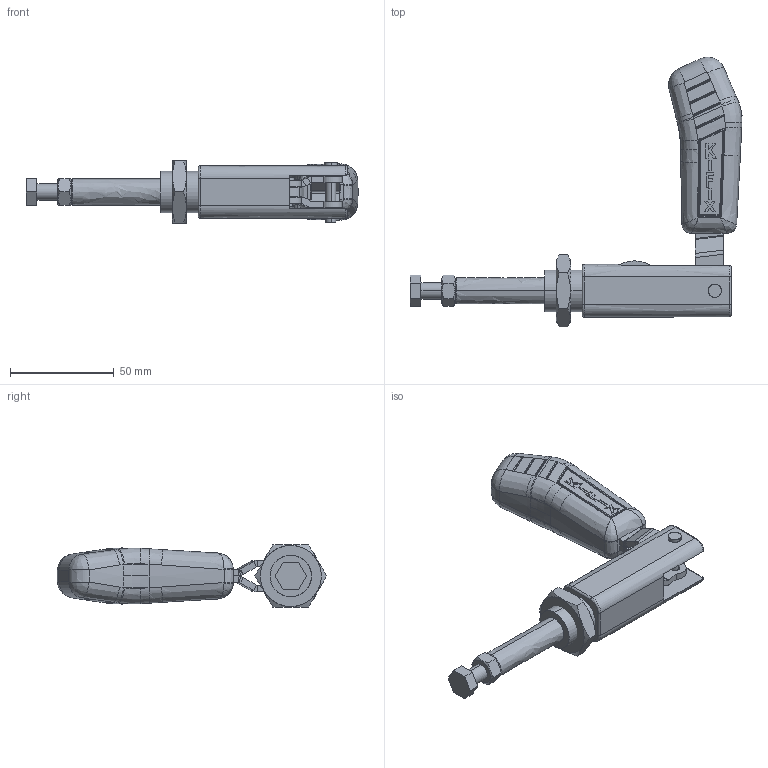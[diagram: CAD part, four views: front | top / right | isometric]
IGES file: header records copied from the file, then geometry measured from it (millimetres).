
Start section: SolidWorks IGES file using analytic representation for surfaces
Global section: file name: C:\Projetos\Grampos\KF-007\KF-007.IGS; native system: SolidWorks 2013; preprocessor: SolidWorks 2013; author: Ricardo; date: 140826.143402; units: millimetre
Bounding box: 160.09 x 129.92 x 30 mm (x, y, z)
Surface area: 42085 mm2 (no closed solid volume)
Topology: 0 solids, 0 shells, 624 faces, 6455 edges, 6438 vertices
Faces by surface type: bspline 405, revolution 219
